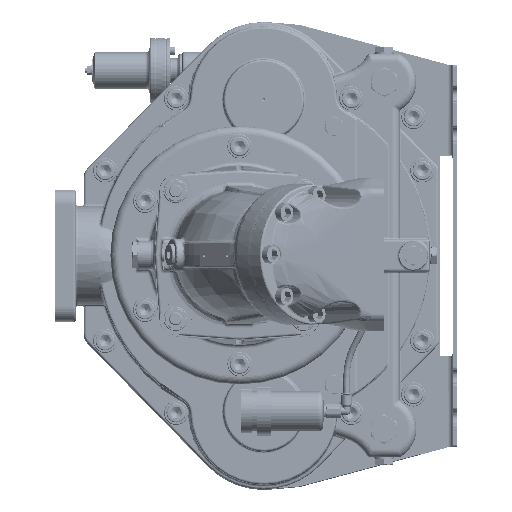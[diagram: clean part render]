
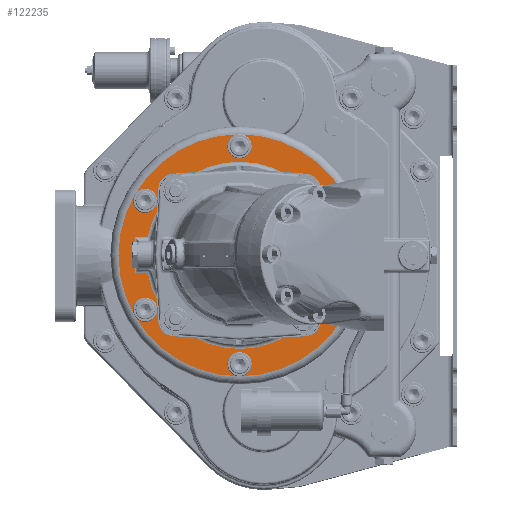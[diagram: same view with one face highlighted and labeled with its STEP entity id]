
A CAD part, top view. The second image highlights one B-rep face of the part: STEP entity #122235.
In plain terms, the highlighted planar face has unit normal (0, 0, 1) as drawn and (0, 1, 0) by its records, which use the part's own axes.
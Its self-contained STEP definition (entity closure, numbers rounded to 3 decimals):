
#5227=FACE_BOUND('',#21575,.T.);
#5228=FACE_BOUND('',#21576,.T.);
#5229=FACE_BOUND('',#21577,.T.);
#5230=FACE_BOUND('',#21578,.T.);
#5231=FACE_BOUND('',#21579,.T.);
#5232=FACE_BOUND('',#21580,.T.);
#5233=FACE_BOUND('',#21581,.T.);
#7451=PLANE('',#134271);
#13920=FACE_OUTER_BOUND('',#21574,.T.);
#21574=EDGE_LOOP('',(#104014));
#21575=EDGE_LOOP('',(#104015,#104016,#104017,#104018));
#21576=EDGE_LOOP('',(#104019));
#21577=EDGE_LOOP('',(#104020));
#21578=EDGE_LOOP('',(#104021));
#21579=EDGE_LOOP('',(#104022));
#21580=EDGE_LOOP('',(#104023));
#21581=EDGE_LOOP('',(#104024));
#30889=CIRCLE('',#134267,150.);
#30893=CIRCLE('',#134272,116.);
#30894=CIRCLE('',#134273,6.5);
#30895=CIRCLE('',#134274,6.5);
#30896=CIRCLE('',#134275,6.5);
#30897=CIRCLE('',#134276,6.5);
#30898=CIRCLE('',#134277,6.5);
#30899=CIRCLE('',#134278,6.5);
#37489=LINE('',#369711,#44621);
#37490=LINE('',#369715,#44622);
#37491=LINE('',#369716,#44623);
#44621=VECTOR('',#162176,10.);
#44622=VECTOR('',#162179,10.);
#44623=VECTOR('',#162180,10.);
#55032=VERTEX_POINT('',#369701);
#55035=VERTEX_POINT('',#369709);
#55036=VERTEX_POINT('',#369710);
#55037=VERTEX_POINT('',#369712);
#55038=VERTEX_POINT('',#369714);
#55039=VERTEX_POINT('',#369717);
#55040=VERTEX_POINT('',#369719);
#55041=VERTEX_POINT('',#369721);
#55042=VERTEX_POINT('',#369723);
#55043=VERTEX_POINT('',#369725);
#55044=VERTEX_POINT('',#369727);
#71584=EDGE_CURVE('',#55032,#55032,#30889,.T.);
#71588=EDGE_CURVE('',#55035,#55036,#37489,.T.);
#71589=EDGE_CURVE('',#55037,#55035,#30893,.T.);
#71590=EDGE_CURVE('',#55038,#55037,#37490,.T.);
#71591=EDGE_CURVE('',#55036,#55038,#37491,.T.);
#71592=EDGE_CURVE('',#55039,#55039,#30894,.T.);
#71593=EDGE_CURVE('',#55040,#55040,#30895,.T.);
#71594=EDGE_CURVE('',#55041,#55041,#30896,.T.);
#71595=EDGE_CURVE('',#55042,#55042,#30897,.T.);
#71596=EDGE_CURVE('',#55043,#55043,#30898,.T.);
#71597=EDGE_CURVE('',#55044,#55044,#30899,.T.);
#104014=ORIENTED_EDGE('',*,*,#71584,.F.);
#104015=ORIENTED_EDGE('',*,*,#71588,.F.);
#104016=ORIENTED_EDGE('',*,*,#71589,.F.);
#104017=ORIENTED_EDGE('',*,*,#71590,.F.);
#104018=ORIENTED_EDGE('',*,*,#71591,.F.);
#104019=ORIENTED_EDGE('',*,*,#71592,.T.);
#104020=ORIENTED_EDGE('',*,*,#71593,.T.);
#104021=ORIENTED_EDGE('',*,*,#71594,.T.);
#104022=ORIENTED_EDGE('',*,*,#71595,.T.);
#104023=ORIENTED_EDGE('',*,*,#71596,.T.);
#104024=ORIENTED_EDGE('',*,*,#71597,.T.);
#122235=ADVANCED_FACE('',(#13920,#5227,#5228,#5229,#5230,#5231,#5232,#5233),
#7451,.F.);
#134267=AXIS2_PLACEMENT_3D('',#369702,#162166,#162167);
#134271=AXIS2_PLACEMENT_3D('',#369708,#162174,#162175);
#134272=AXIS2_PLACEMENT_3D('',#369713,#162177,#162178);
#134273=AXIS2_PLACEMENT_3D('',#369718,#162181,#162182);
#134274=AXIS2_PLACEMENT_3D('',#369720,#162183,#162184);
#134275=AXIS2_PLACEMENT_3D('',#369722,#162185,#162186);
#134276=AXIS2_PLACEMENT_3D('',#369724,#162187,#162188);
#134277=AXIS2_PLACEMENT_3D('',#369726,#162189,#162190);
#134278=AXIS2_PLACEMENT_3D('',#369728,#162191,#162192);
#162166=DIRECTION('center_axis',(0.,-1.,0.));
#162167=DIRECTION('ref_axis',(-1.,0.,0.));
#162174=DIRECTION('center_axis',(0.,-1.,0.));
#162175=DIRECTION('ref_axis',(0.,0.,-1.));
#162176=DIRECTION('',(0.,0.,-1.));
#162177=DIRECTION('center_axis',(0.,1.,0.));
#162178=DIRECTION('ref_axis',(0.,0.,1.));
#162179=DIRECTION('',(0.,0.,1.));
#162180=DIRECTION('',(-1.,0.,0.));
#162181=DIRECTION('center_axis',(0.,-1.,0.));
#162182=DIRECTION('ref_axis',(1.,0.,0.));
#162183=DIRECTION('center_axis',(0.,-1.,0.));
#162184=DIRECTION('ref_axis',(1.,0.,0.));
#162185=DIRECTION('center_axis',(0.,-1.,0.));
#162186=DIRECTION('ref_axis',(1.,0.,0.));
#162187=DIRECTION('center_axis',(0.,-1.,0.));
#162188=DIRECTION('ref_axis',(1.,0.,0.));
#162189=DIRECTION('center_axis',(0.,-1.,0.));
#162190=DIRECTION('ref_axis',(1.,0.,0.));
#162191=DIRECTION('center_axis',(0.,-1.,0.));
#162192=DIRECTION('ref_axis',(1.,0.,0.));
#369701=CARTESIAN_POINT('',(0.,20.,-150.));
#369702=CARTESIAN_POINT('Origin',(0.,20.,0.));
#369708=CARTESIAN_POINT('Origin',(0.,20.,0.));
#369709=CARTESIAN_POINT('',(22.5,20.,-113.797));
#369710=CARTESIAN_POINT('',(22.5,20.,-130.));
#369711=CARTESIAN_POINT('',(22.5,20.,-62.5));
#369712=CARTESIAN_POINT('',(-22.5,20.,-113.797));
#369713=CARTESIAN_POINT('Origin',(0.,20.,0.));
#369714=CARTESIAN_POINT('',(-22.5,20.,-130.));
#369715=CARTESIAN_POINT('',(-22.5,20.,-62.5));
#369716=CARTESIAN_POINT('',(0.,20.,-130.));
#369717=CARTESIAN_POINT('',(61.,20.,-116.913));
#369718=CARTESIAN_POINT('Origin',(67.5,20.,-116.913));
#369719=CARTESIAN_POINT('',(61.,20.,116.913));
#369720=CARTESIAN_POINT('Origin',(67.5,20.,116.913));
#369721=CARTESIAN_POINT('',(-141.5,20.,0.));
#369722=CARTESIAN_POINT('Origin',(-135.,20.,0.));
#369723=CARTESIAN_POINT('',(-74.,20.,-116.913));
#369724=CARTESIAN_POINT('Origin',(-67.5,20.,-116.913));
#369725=CARTESIAN_POINT('',(-74.,20.,116.913));
#369726=CARTESIAN_POINT('Origin',(-67.5,20.,116.913));
#369727=CARTESIAN_POINT('',(128.5,20.,0.));
#369728=CARTESIAN_POINT('Origin',(135.,20.,0.));
